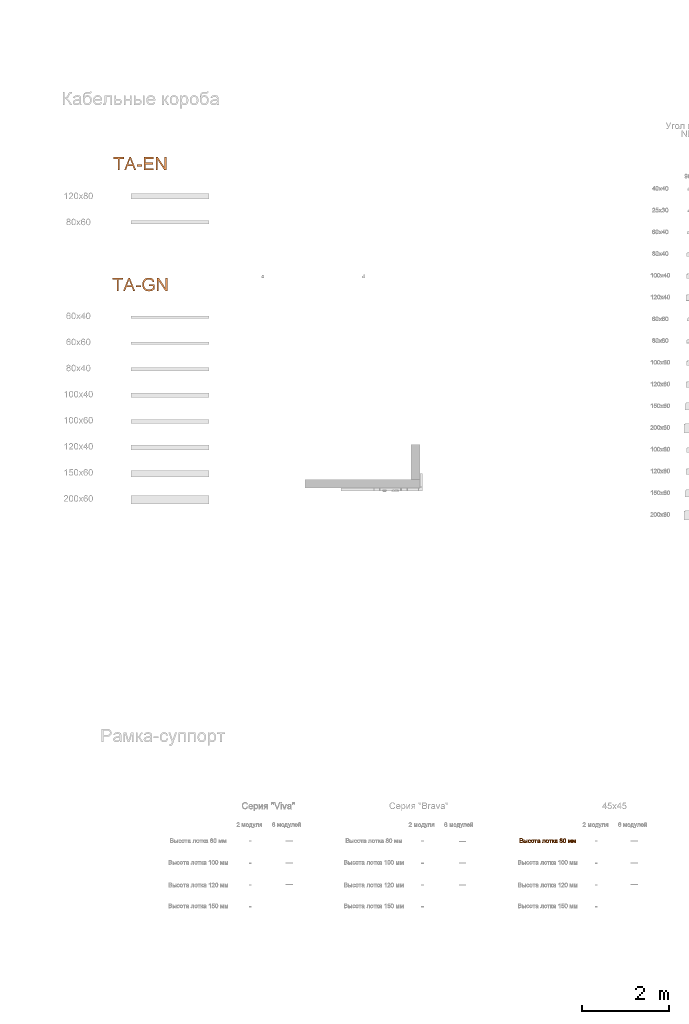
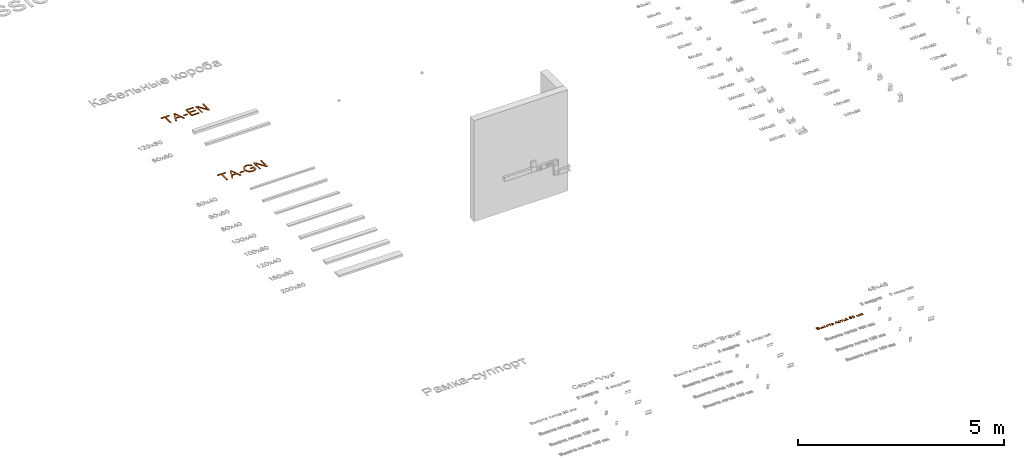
# One storey, part 27 of 71: 3 proxies.
"""IFC2X3 building model written with IfcOpenShell, lengths in millimetres."""

from ifc_helpers import new_model, entity, si_unit, converted_unit, derived_unit, direction, frame, frame_2d, origin, place, context, subcontext, project, spatial, polyline, rectangle, outline, extrude, element, save


model = new_model("IFC2X3")

# Units and contexts
model_context = context("Model", 3, precision=0.01, world=origin(), true_north=direction((6.12303176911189e-17, 1.0)))
body_context = subcontext(model_context, "Body", "Model", "MODEL_VIEW")
ifc_project = project(units=[si_unit("LENGTHUNIT", "METRE", prefix="MILLI"), si_unit("AREAUNIT", "SQUARE_METRE"), si_unit("VOLUMEUNIT", "CUBIC_METRE"), converted_unit("PLANEANGLEUNIT", "DEGREE", entity("IfcRatioMeasure", 0.0174532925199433), si_unit("PLANEANGLEUNIT", "RADIAN"), dimensions=[0, 0, 0, 0, 0, 0, 0]), si_unit("MASSUNIT", "GRAM", prefix="KILO"), derived_unit("MASSDENSITYUNIT", [(si_unit("MASSUNIT", "GRAM", prefix="KILO"), 1), (si_unit("LENGTHUNIT", "METRE"), -3)]), si_unit("TIMEUNIT", "SECOND"), si_unit("FREQUENCYUNIT", "HERTZ"), si_unit("THERMODYNAMICTEMPERATUREUNIT", "DEGREE_CELSIUS"), derived_unit("THERMALTRANSMITTANCEUNIT", [(si_unit("MASSUNIT", "GRAM", prefix="KILO"), 1), (si_unit("THERMODYNAMICTEMPERATUREUNIT", "KELVIN"), -1), (si_unit("TIMEUNIT", "SECOND"), -3)]), derived_unit("VOLUMETRICFLOWRATEUNIT", [(si_unit("LENGTHUNIT", "METRE"), 3), (si_unit("TIMEUNIT", "SECOND"), -1)]), si_unit("ELECTRICCURRENTUNIT", "AMPERE"), si_unit("ELECTRICVOLTAGEUNIT", "VOLT"), si_unit("POWERUNIT", "WATT"), si_unit("FORCEUNIT", "NEWTON", prefix="KILO"), si_unit("ILLUMINANCEUNIT", "LUX"), si_unit("LUMINOUSFLUXUNIT", "LUMEN"), si_unit("LUMINOUSINTENSITYUNIT", "CANDELA"), derived_unit("USERDEFINED", [(si_unit("MASSUNIT", "GRAM", prefix="KILO"), -1), (si_unit("LENGTHUNIT", "METRE"), -2), (si_unit("TIMEUNIT", "SECOND"), 3), (si_unit("LUMINOUSFLUXUNIT", "LUMEN"), 1)]), derived_unit("LINEARVELOCITYUNIT", [(si_unit("LENGTHUNIT", "METRE"), 1), (si_unit("TIMEUNIT", "SECOND"), -1)]), si_unit("PRESSUREUNIT", "PASCAL"), derived_unit("USERDEFINED", [(si_unit("LENGTHUNIT", "METRE"), -2), (si_unit("MASSUNIT", "GRAM", prefix="KILO"), 1), (si_unit("TIMEUNIT", "SECOND"), -2)])], contexts=[model_context])

# Site, building, storey
site_placement = place(None, origin())
site = spatial("IfcSite", under=ifc_project, at=site_placement, Name="Default", CompositionType="ELEMENT")
building_placement = place(site_placement, origin())
building = spatial("IfcBuilding", under=site, at=building_placement, Name="Наименование здания", CompositionType="ELEMENT")
storey_placement = place(building_placement, origin())
storey = spatial("IfcBuildingStorey", under=building, at=storey_placement, Name="Этаж 01", CompositionType="ELEMENT", Elevation=0.0)

# Proxies
proxy_1_placement = place(storey_placement, origin())
element("IfcBuildingElementProxy", 1, at=proxy_1_placement, inside=storey, Name="Текст модели:300 мм Arial", ObjectType="Текст модели:300 мм Arial", context=body_context, shape_type="SweptSolid", body=[
    extrude(outline(polyline([(-18.8355581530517, -207.19113968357), (18.8355581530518, -207.19113968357), (18.8355581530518, 56.5066744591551), (117.722238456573, 56.5066744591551), (117.722238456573, 94.1777907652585), (-117.722238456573, 94.1777907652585), (-117.722238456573, 56.5066744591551), (-18.8355581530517, 56.5066744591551), (-18.8355581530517, -207.19113968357)])), frame((689.401621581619, 3709.70994998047, 0.0)), (0.0, 0.0, 1.0), 20.0),
    extrude(outline(polyline([(-136.32787036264, -98.8866803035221), (-96.5230384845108, -98.8866803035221), (-62.0892837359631, -4.70888953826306), (62.0341014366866, -4.70888953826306), (96.5414325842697, -98.8866803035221), (136.346264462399, -98.8866803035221), (16.0488520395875, 202.482250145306), (-16.0304579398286, 202.482250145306), (-136.32787036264, -98.8866803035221)]), holes=[polyline([(-48.2569207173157, 32.9622267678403), (-18.7527847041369, 113.528383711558), (0.00919704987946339, 164.811133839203), (21.1256235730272, 107.053660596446), (48.2753148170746, 32.9622267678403), (-48.2569207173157, 32.9622267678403)])]), frame((950.735793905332, 3601.40549060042, 0.0)), (0.0, 0.0, 1.0), 20.0),
    extrude(rectangle(XDim=117.722238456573, YDim=37.6711163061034, at=frame_2d((-6.75015598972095e-14, 0.0), x_axis=(1.0, 0.0))), frame((1162.64502017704, 3610.82326967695, 0.0)), (0.0, 0.0, 1.0), 20.0),
    extrude(outline(polyline([(-120.076683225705, -152.254095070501), (101.241125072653, -152.254095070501), (101.241125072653, -114.582978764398), (-82.4055669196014, -114.582978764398), (-82.4055669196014, -15.696298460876), (87.1144564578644, -15.696298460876), (87.1144564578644, 21.9748178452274), (-82.4055669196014, 21.9748178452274), (-82.4055669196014, 111.443719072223), (96.5322355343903, 111.443719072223), (96.5322355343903, 149.114835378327), (-120.076683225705, 149.114835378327), (-120.076683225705, -152.254095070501)])), frame((1388.67171801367, 3654.7729053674, 0.0)), (0.0, 0.0, 1.0), 20.0),
    extrude(outline(polyline([(-117.722238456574, -150.691822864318), (-80.0511221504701, -150.691822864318), (-80.0511221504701, 88.1371684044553), (77.4023717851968, -150.691822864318), (117.722238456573, -150.691822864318), (117.722238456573, 150.67710758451), (80.0511221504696, 150.67710758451), (80.0511221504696, -88.0783072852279), (-77.4023717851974, 150.67710758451), (-117.722238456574, 150.67710758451), (-117.722238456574, -150.691822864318)])), frame((1664.14175600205, 3653.21063316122, 0.0)), (0.0, 0.0, 1.0), 20.0),
])
proxy_2_placement = place(storey_placement, origin())
element("IfcBuildingElementProxy", 2, at=proxy_2_placement, inside=storey, Name="Текст модели:300 мм Arial", ObjectType="Текст модели:300 мм Arial", context=body_context, shape_type="SweptSolid", body=[
    extrude(outline(polyline([(-18.8355581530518, -207.191139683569), (18.8355581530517, -207.191139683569), (18.8355581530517, 56.5066744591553), (117.722238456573, 56.5066744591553), (117.722238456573, 94.1777907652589), (-117.722238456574, 94.1777907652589), (-117.722238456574, 56.5066744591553), (-18.8355581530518, 56.5066744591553), (-18.8355581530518, -207.191139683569)])), frame((665.8571738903, 929.709949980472, 0.0)), (0.0, 0.0, 1.0), 20.0),
    extrude(outline(polyline([(-136.32787036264, -98.8866803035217), (-96.5230384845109, -98.8866803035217), (-62.0892837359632, -4.70888953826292), (62.0341014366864, -4.70888953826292), (96.5414325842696, -98.8866803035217), (136.346264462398, -98.8866803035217), (16.0488520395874, 202.482250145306), (-16.0304579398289, 202.482250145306), (-136.32787036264, -98.8866803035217)]), holes=[polyline([(-48.2569207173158, 32.9622267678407), (-18.7527847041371, 113.528383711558), (0.00919704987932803, 164.811133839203), (21.1256235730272, 107.053660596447), (48.2753148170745, 32.9622267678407), (-48.2569207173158, 32.9622267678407)])]), frame((927.191346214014, 821.405490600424, 0.0)), (0.0, 0.0, 1.0), 20.0),
    extrude(rectangle(XDim=117.722238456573, YDim=37.6711163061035, at=frame_2d((0.0, -6.75015598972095e-14), x_axis=(1.0, 0.0))), frame((1139.10057248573, 830.82326967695, 0.0)), (0.0, 0.0, 1.0), 20.0),
    extrude(outline(polyline([(13.1433056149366, 39.6701221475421), (13.1433056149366, 1.99900584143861), (135.574433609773, 1.99900584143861), (135.574433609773, 114.644472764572), (105.82197724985, 135.337834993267), (75.1314218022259, 150.18187349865), (43.5763436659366, 159.121405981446), (11.2303192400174, 162.101250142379), (-31.0301249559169, 157.364769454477), (-69.2254731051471, 143.155327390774), (-100.955295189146, 119.969564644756), (-123.819161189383, 88.304121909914), (-137.642327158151, 50.3203059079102), (-142.250049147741, 8.17942336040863), (-137.66072125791, -34.2649618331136), (-123.892737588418, -73.7478969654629), (-101.51631523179, -106.866473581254), (-71.101671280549, -130.217783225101), (-34.0559543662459, -144.068540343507), (8.21368687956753, -148.685459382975), (39.24453317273, -146.009117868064), (67.1483825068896, -137.980093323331), (90.6468449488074, -125.177799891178), (108.461530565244, -108.181651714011), (121.640903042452, -86.1731113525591), (131.233426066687, -58.3336413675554), (96.5053657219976, -48.5479802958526), (88.7522526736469, -68.40441098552), (79.3252765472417, -83.3864052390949), (66.8540769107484, -94.6803824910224), (49.9682933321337, -103.472762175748), (29.8359511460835, -109.128947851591), (7.62507568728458, -111.014343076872), (-18.3749843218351, -108.98179505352), (-40.604253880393, -102.884150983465), (-58.9799595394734, -93.4847660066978), (-73.4193278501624, -81.5469952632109), (-92.8067089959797, -52.521105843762), (-101.635876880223, -24.083827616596), (-104.578932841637, 6.63431898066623), (-101.03806863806, 42.6591633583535), (-90.4154760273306, 72.3012551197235), (-73.0330517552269, 95.3490621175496), (-49.2126925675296, 111.591052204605), (-21.3364343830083, 121.220363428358), (8.21368687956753, 124.430133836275), (34.3057173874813, 122.011309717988), (59.7539544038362, 114.754837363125), (81.8544652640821, 104.757644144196), (97.9033173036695, 94.1166574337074), (97.9033173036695, 39.6701221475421), (13.1433056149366, 39.6701221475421)])), frame((1373.17396762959, 879.911170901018, 0.0), z_axis=(0.0, 0.0, -1.0), x_axis=(1.0, 0.0, 0.0)), (0.0, 0.0, -1.0), 20.0),
    extrude(outline(polyline([(-117.722238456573, -150.691822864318), (-80.0511221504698, -150.691822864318), (-80.0511221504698, 88.1371684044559), (77.4023717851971, -150.691822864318), (117.722238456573, -150.691822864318), (117.722238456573, 150.677107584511), (80.0511221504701, 150.677107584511), (80.0511221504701, -88.0783072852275), (-77.4023717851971, 150.677107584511), (-117.722238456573, 150.677107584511), (-117.722238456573, -150.691822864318)])), frame((1687.68620369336, 873.21063316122, 0.0)), (0.0, 0.0, 1.0), 20.0),
])
proxy_3_placement = place(storey_placement, origin())
element("IfcBuildingElementProxy", 3, at=proxy_3_placement, inside=storey, Name="Текст модели:100 мм Arial", ObjectType="Текст модели:100 мм Arial", context=body_context, shape_type="SweptSolid", body=[
    extrude(outline(polyline([(-52.8068326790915, -48.6909338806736), (-14.7678343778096, -48.6909338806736), (1.33313427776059, -46.9618885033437), (12.2592295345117, -41.860591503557), (19.5800812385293, -32.2466086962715), (22.5353999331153, -18.7453394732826), (18.2066551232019, -3.12261741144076), (5.83355735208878, 6.24611073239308), (16.0238886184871, 15.1365922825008), (19.3961402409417, 26.8720279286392), (15.3862264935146, 39.7233722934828), (4.30071570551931, 48.8100575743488), (-14.4735287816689, 51.7653762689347), (-52.8068326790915, 51.7653762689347), (-52.8068326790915, -48.6909338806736)]), holes=[polyline([(-40.2497939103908, 10.9550002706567), (-40.2497939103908, 39.208337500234), (-19.0597909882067, 39.208337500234), (-2.92203413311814, 37.8962250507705), (4.31297843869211, 33.0524454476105), (6.83910147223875, 24.8609396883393), (4.12903744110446, 16.6816966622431), (-3.92757825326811, 12.0341207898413), (-17.318482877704, 10.9550002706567), (-40.2497939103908, 10.9550002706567)]), polyline([(-40.2497939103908, -36.1338951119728), (-40.2497939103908, -1.60203849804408), (-15.7243275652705, -1.60203849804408), (-0.211970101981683, -3.28203294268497), (7.57486546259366, -9.10683119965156), (9.97836116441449, -18.8679668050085), (7.93048472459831, -27.3292526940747), (2.70656039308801, -32.9087962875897), (-5.17837703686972, -35.6433857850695), (-14.4980542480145, -36.1338951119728), (-40.2497939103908, -36.1338951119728)])]), frame((9968.33160760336, -11917.8794073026, 0.0)), (0.0, 0.0, 1.0), 20.0),
    extrude(outline(polyline([(-42.39887158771, -34.5139341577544), (31.3737311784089, -34.5139341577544), (31.3737311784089, -3.73447389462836), (29.653882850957, 9.31613988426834), (24.4943378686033, 18.2526066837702), (16.9129030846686, 23.4121516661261), (7.92738535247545, 25.131999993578), (-1.9410491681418, 23.081057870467), (-9.42438208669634, 16.928231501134), (-14.1424686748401, 6.98622058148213), (-15.7151642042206, -6.43227519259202), (-15.7151642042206, -21.9568953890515), (-42.39887158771, -21.9568953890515), (-42.39887158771, -34.5139341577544)]), holes=[polyline([(18.8166924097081, -21.9568953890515), (-3.15812543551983, -21.9568953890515), (-3.15812543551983, -7.41329384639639), (0.226388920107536, 8.8838785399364), (7.95191081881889, 12.5749612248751), (16.1802047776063, 7.5962915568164), (18.8166924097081, -9.05650009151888), (18.8166924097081, -21.9568953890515)])]), frame((10041.0772401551, -11935.1966100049, 0.0), z_axis=(0.0, 0.0, 1.0), x_axis=(0.0, -1.0, 0.0)), (0.0, 0.0, 1.0), 20.0),
    extrude(outline(polyline([(0.267683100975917, -20.7200562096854), (-4.02278247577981, -32.6253015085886), (7.51957889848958, -34.5647704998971), (18.024291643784, -32.524098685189), (26.8500141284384, -26.8719753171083), (33.3554047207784, -17.9770896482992), (37.2076783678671, -4.95154901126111), (35.3403176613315, 7.71415747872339), (27.6846262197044, 19.1676933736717), (14.1719076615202, 28.5567222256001), (-6.16200624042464, 34.5864889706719), (-23.4110955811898, 30.2307841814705), (-35.1302422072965, 17.0254849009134), (-38.5714296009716, 6.87231136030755), (-38.3156698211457, -2.77330902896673), (-34.4593562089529, -11.5597521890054), (-27.0988821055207, -19.1353940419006), (-20.0099089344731, -8.65257858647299), (-25.7552259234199, 0.80169796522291), (-23.9806627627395, 11.2483121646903), (-18.9208808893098, 17.7794646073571), (-11.8538304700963, 21.4126833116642), (-2.81100512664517, 21.5312059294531), (8.1761015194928, 17.5182701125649), (18.0468481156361, 10.9639331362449), (23.347053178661, 3.65828147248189), (24.6053297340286, -4.07586677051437), (22.3502908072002, -11.9156934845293), (13.5558525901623, -20.7200562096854), (0.267683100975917, -20.7200562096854)])), frame((10135.7588113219, -11930.2595425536, 0.0), z_axis=(0.0, 0.0, -1.0), x_axis=(-0.45310996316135, -0.891454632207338, 0.0)), (0.0, 0.0, -1.0), 20.0),
    extrude(outline(polyline([(-2.3402974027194, -31.6984909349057), (14.2731811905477, -31.6984909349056), (27.1869525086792, -26.5873672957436), (35.9909592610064, -17.1811275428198), (40.2751441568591, -4.29577920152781), (38.1491713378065, 13.1690451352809), (27.2514955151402, 26.6485362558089), (5.67797919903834, 33.7446283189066), (-10.1280544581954, 33.6081083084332), (-22.8059382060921, 28.3900569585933), (-31.6389568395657, 18.9754531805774), (-35.9103951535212, 6.24927588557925), (-35.5406401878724, -5.97109031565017), (-30.853588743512, -16.7835237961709), (-19.5870121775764, -26.5692340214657), (-2.3402974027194, -31.6984909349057)]), holes=[polyline([(-0.642949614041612, -19.2566729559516), (-11.6948097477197, -16.2599663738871), (-19.0989004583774, -10.8341828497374), (-22.9822632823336, -3.67356758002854), (-23.4719397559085, 4.52763423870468), (-20.778322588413, 12.2046648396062), (-15.0781786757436, 18.0357050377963), (-6.56600936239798, 21.2863283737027), (4.56368400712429, 21.2221083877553), (15.8675929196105, 18.1905150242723), (23.3961896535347, 12.747498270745), (27.3267847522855, 5.59272509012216), (27.8366887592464, -2.57413755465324), (25.1317228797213, -10.3331599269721), (19.4311586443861, -16.167236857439), (10.8134498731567, -19.3753979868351), (-0.642949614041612, -19.2566729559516)])]), frame((10206.2337114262, -11927.6561924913, 0.0), z_axis=(0.0, 0.0, 1.0), x_axis=(0.137105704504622, -0.990556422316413, 0.0)), (0.0, 0.0, 1.0), 20.0),
    extrude(outline(polyline([(-24.7216700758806, -29.8229670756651), (-12.1646313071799, -29.8229670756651), (-12.1646313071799, -6.27851938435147), (49.0509326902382, -6.27851938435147), (49.0509326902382, 6.2785193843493), (-12.1646313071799, 6.2785193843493), (-12.1646313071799, 29.8229670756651), (-24.7216700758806, 29.8229670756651), (-24.7216700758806, -29.8229670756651)])), frame((10278.1092693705, -11917.5194084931, 0.0), z_axis=(0.0, 0.0, 1.0), x_axis=(0.0, -1.0, 0.0)), (0.0, 0.0, 1.0), 20.0),
    extrude(outline(polyline([(32.0508237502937, 7.88266535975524), (41.978034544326, 7.88266535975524), (45.9489188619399, 19.7953183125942), (35.1414436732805, 20.7608946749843), (14.2438893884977, 27.0545912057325), (-0.577126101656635, 31.9949297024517), (-11.1945882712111, 34.8877809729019), (-20.4974705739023, 33.9299602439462), (-28.5323068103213, 27.547073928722), (-35.4619652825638, 13.8157249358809), (-38.3044049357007, -2.6998964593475), (-34.9462156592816, -15.3493345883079), (-25.0306383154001, -24.3807697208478), (-19.5706723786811, -12.9644773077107), (-25.7868125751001, -4.50695904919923), (-24.061184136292, 8.30922519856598), (-16.2279943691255, 20.3304570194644), (-6.33956174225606, 20.6794605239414), (-3.71040200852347, 19.7255176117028), (-6.50243004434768, -2.30048133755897), (-8.14662433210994, -13.2049019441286), (-7.0181796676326, -22.8490321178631), (-2.17478658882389, -31.1204151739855), (6.48825595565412, -36.5416029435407), (15.0010331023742, -37.7020395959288), (22.9495879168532, -35.3200906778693), (29.6378522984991, -29.3899394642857), (34.3697581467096, -19.9057692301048), (36.2737661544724, -6.36055543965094), (32.0508237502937, 7.88266535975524)]), holes=[polyline([(8.22551784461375, 15.8244339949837), (11.5759514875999, 14.6300664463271), (20.1614376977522, 9.674216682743), (24.4696920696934, -0.396473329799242), (23.3024692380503, -13.3987927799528), (17.2491973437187, -22.9498553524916), (9.62153186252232, -24.3497471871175), (5.58084684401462, -21.1932043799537), (3.98706417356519, -15.5044472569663), (5.47226797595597, -4.61166010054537), (8.22551784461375, 15.8244339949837)])]), frame((10348.3950273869, -11929.2391985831, 0.0), z_axis=(0.0, 0.0, 1.0), x_axis=(0.316227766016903, -0.948683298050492, 0.0)), (0.0, 0.0, 1.0), 20.0),
    extrude(outline(polyline([(-49.3689973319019, 12.5447760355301), (-49.3689973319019, -43.9618984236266), (24.3300290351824, -43.9618984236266), (24.3300290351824, -31.4048596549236), (-36.8119585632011, -31.4048596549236), (-36.8119585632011, -0.0122627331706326), (-1.61791435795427, -0.0122627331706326), (14.6179443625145, 0.833865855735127), (21.4728122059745, 5.48144172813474), (24.403605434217, 16.4688506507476), (23.7659433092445, 26.6714446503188), (11.8465666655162, 26.6714446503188), (11.8465666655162, 21.0551128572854), (11.0740144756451, 15.3774673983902), (8.62146784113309, 13.108861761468), (-2.32915288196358, 12.5447760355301), (-49.3689973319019, 12.5447760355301)])), frame((10453.8955493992, -11942.1667357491, 0.0), z_axis=(0.0, 0.0, -1.0), x_axis=(0.0, -1.0, 0.0)), (0.0, 0.0, -1.0), 20.0),
    extrude(outline(polyline([(-2.34029740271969, -31.6984909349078), (14.2731811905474, -31.6984909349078), (27.1869525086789, -26.5873672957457), (35.9909592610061, -17.1811275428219), (40.2751441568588, -4.29577920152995), (38.1491713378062, 13.1690451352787), (27.2514955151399, 26.6485362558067), (5.67797919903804, 33.7446283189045), (-10.1280544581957, 33.6081083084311), (-22.8059382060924, 28.3900569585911), (-31.6389568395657, 18.9754531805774), (-35.9103951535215, 6.24927588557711), (-35.5406401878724, -5.97109031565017), (-30.8535887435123, -16.783523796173), (-19.5870121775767, -26.5692340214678), (-2.34029740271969, -31.6984909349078)]), holes=[polyline([(-0.642949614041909, -19.2566729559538), (-11.69480974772, -16.2599663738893), (-19.0989004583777, -10.8341828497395), (-22.9822632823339, -3.67356758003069), (-23.4719397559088, 4.52763423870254), (-20.7783225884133, 12.204664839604), (-15.0781786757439, 18.0357050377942), (-6.56600936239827, 21.2863283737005), (4.56368400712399, 21.2221083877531), (15.8675929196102, 18.1905150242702), (23.3961896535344, 12.7474982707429), (27.3267847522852, 5.59272509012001), (27.8366887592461, -2.57413755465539), (25.131722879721, -10.3331599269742), (19.4311586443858, -16.1672368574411), (10.8134498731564, -19.3753979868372), (-0.642949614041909, -19.2566729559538)])]), frame((10545.2737581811, -11927.6561924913, 0.0), z_axis=(0.0, 0.0, 1.0), x_axis=(0.137105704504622, -0.990556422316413, 0.0)), (0.0, 0.0, 1.0), 20.0),
    extrude(outline(polyline([(-24.7216700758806, -29.8229670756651), (-12.1646313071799, -29.8229670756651), (-12.1646313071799, -6.27851938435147), (49.0509326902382, -6.27851938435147), (49.0509326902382, 6.2785193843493), (-12.1646313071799, 6.2785193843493), (-12.1646313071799, 29.8229670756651), (-24.7216700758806, 29.8229670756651), (-24.7216700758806, -29.8229670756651)])), frame((10617.1493161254, -11917.5194084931, 0.0), z_axis=(0.0, 0.0, 1.0), x_axis=(0.0, -1.0, 0.0)), (0.0, 0.0, 1.0), 20.0),
    extrude(outline(polyline([(-30.3295712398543, -29.5353037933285), (43.4430315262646, -29.5353037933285), (43.4430315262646, -16.9782650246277), (8.91117491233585, -16.9782650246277), (11.2288314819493, -10.2337617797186), (20.8060260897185, -3.61188586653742), (43.4430315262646, 9.55828956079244), (43.4430315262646, 23.8321109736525), (20.3155167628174, 10.3921554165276), (10.0209522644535, 2.61758258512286), (5.1342530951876, -5.3041430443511), (0.756457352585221, 1.7959794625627), (-8.18307513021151, 6.86048826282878), (-16.4481572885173, 11.1769703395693), (-17.7725324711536, 17.3083369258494), (-17.6989560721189, 20.6928512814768), (-30.3295712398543, 20.6928512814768), (-30.3295712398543, 18.2893555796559), (-29.3730780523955, 9.10456843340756), (-25.6819953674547, 4.05232236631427), (-14.3389671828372, -1.6743740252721), (-1.1933172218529, -8.56603006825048), (1.06302568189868, -16.9782650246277), (-30.3295712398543, -16.9782650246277), (-30.3295712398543, -29.5353037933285)])), frame((10687.4949959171, -11923.127309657, 0.0), z_axis=(0.0, 0.0, 1.0), x_axis=(0.0, -1.0, 0.0)), (0.0, 0.0, 1.0), 20.0),
    extrude(rectangle(XDim=73.7726027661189, YDim=12.5570387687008, at=frame_2d((1.08357767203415e-12, -1.08268949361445e-12), x_axis=(1.0, 0.0))), frame((10081.9055386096, -11929.6840398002, 0.0), z_axis=(0.0, 0.0, 1.0), x_axis=(0.0, -1.0, 0.0)), (0.0, 0.0, 1.0), 20.0),
    extrude(outline(polyline([(32.050823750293, 7.88266535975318), (41.9780345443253, 7.88266535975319), (45.9489188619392, 19.7953183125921), (35.1414436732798, 20.7608946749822), (14.243889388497, 27.0545912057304), (-0.57712610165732, 31.9949297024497), (-11.1945882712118, 34.8877809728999), (-20.4974705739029, 33.9299602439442), (-28.532306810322, 27.54707392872), (-35.4619652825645, 13.8157249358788), (-38.3044049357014, -2.69989645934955), (-34.9462156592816, -15.3493345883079), (-25.0306383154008, -24.3807697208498), (-19.5706723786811, -12.9644773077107), (-25.7868125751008, -4.50695904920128), (-24.0611841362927, 8.30922519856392), (-16.2279943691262, 20.3304570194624), (-6.33956174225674, 20.6794605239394), (-3.71040200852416, 19.7255176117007), (-6.50243004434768, -2.30048133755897), (-8.14662433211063, -13.2049019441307), (-7.01817966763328, -22.8490321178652), (-2.17478658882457, -31.1204151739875), (6.48825595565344, -36.5416029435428), (15.0010331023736, -37.7020395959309), (22.9495879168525, -35.3200906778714), (29.6378522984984, -29.3899394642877), (34.3697581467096, -19.9057692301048), (36.2737661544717, -6.36055543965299), (32.050823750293, 7.88266535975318)]), holes=[polyline([(8.22551784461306, 15.8244339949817), (11.5759514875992, 14.6300664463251), (20.1614376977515, 9.67421668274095), (24.4696920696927, -0.396473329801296), (23.3024692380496, -13.3987927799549), (17.249197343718, -22.9498553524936), (9.62153186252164, -24.3497471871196), (5.58084684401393, -21.1932043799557), (3.9870641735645, -15.5044472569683), (5.47226797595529, -4.61166010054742), (8.22551784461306, 15.8244339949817)])]), frame((10748.6506381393, -11929.2391985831, 0.0), z_axis=(0.0, 0.0, 1.0), x_axis=(0.316227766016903, -0.948683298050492, 0.0)), (0.0, 0.0, 1.0), 20.0),
    extrude(outline(polyline([(10.1224324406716, -11.2212127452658), (26.4477736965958, -11.2212127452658), (39.6861381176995, -0.0909413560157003), (44.6322314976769, 11.3078156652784), (44.5856416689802, 23.416860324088), (39.6073830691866, 34.8346290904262), (29.7584701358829, 44.1595584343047), (17.4236057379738, 49.7956565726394), (4.98749274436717, 50.1469317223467), (-6.20047708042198, 45.7236060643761), (-14.7909119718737, 37.0359017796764), (-20.0781666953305, 21.0056847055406), (-14.5070621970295, 5.37692494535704), (-28.0684052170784, 5.15563707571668), (-37.7221714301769, -2.60845010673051), (-41.5236361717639, -11.9357006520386), (-41.0036870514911, -22.223265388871), (-36.1916154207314, -32.1870777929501), (-27.1167126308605, -40.543071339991), (-16.0503295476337, -45.8123091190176), (-5.18246445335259, -46.5706787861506), (4.38453303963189, -43.2361071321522), (11.5483133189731, -36.22652094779), (15.2516244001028, -24.0826582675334), (10.1224324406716, -11.2212127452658)]), holes=[polyline([(1.34077476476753, -28.9039041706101), (-7.53771017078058, -33.9815875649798), (-20.2415350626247, -30.0339976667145), (-28.5905650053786, -19.6902819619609), (-26.9800933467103, -9.13787919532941), (-18.1108932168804, -3.87648928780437), (-5.45128168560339, -7.82385811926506), (3.15927028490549, -18.2403048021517), (1.34077476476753, -28.9039041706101)]), polyline([(29.0262968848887, 6.56051660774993), (17.1806533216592, -1.5157169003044), (9.68494123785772, -1.27757268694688), (1.95268767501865, 2.32885586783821), (-4.46267094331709, 8.27886886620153), (-7.64161156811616, 15.3010558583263), (-4.59707955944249, 29.6929468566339), (7.3133365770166, 37.7994665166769), (14.8367372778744, 37.4872096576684), (22.659572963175, 33.8012523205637), (30.3730358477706, 25.5864099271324), (32.5711030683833, 15.5727469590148), (29.0262968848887, 6.56051660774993)])]), frame((10865.1498099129, -11914.8893077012, 0.0), z_axis=(0.0, 0.0, 1.0), x_axis=(-0.829266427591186, -0.558853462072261, 0.0)), (0.0, 0.0, 1.0), 20.0),
    extrude(outline(polyline([(-7.02884310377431, -33.3490673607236), (17.5323805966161, -33.3490673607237), (35.1984171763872, -27.6137612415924), (43.3439841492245, -18.4876517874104), (47.0516941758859, -5.75150665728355), (46.7162020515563, 4.48638208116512), (43.4465778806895, 13.0955287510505), (27.9444305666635, 25.6659118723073), (-0.314338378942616, 32.2325535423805), (-24.029650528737, 32.367828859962), (-39.4143020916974, 28.0260881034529), (-49.7293680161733, 18.9002174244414), (-54.4436715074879, 4.63998875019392), (-50.8676582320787, -14.130105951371), (-35.4058547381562, -26.7333390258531), (-7.02884310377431, -33.3490673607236)]), holes=[polyline([(-5.77428774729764, -20.8548320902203), (-25.0157644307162, -17.3562860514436), (-36.7257089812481, -11.5717922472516), (-41.0962588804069, -4.7759968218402), (-41.9669219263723, 3.21464792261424), (-39.2244253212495, 11.2791292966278), (-32.8654063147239, 17.2229259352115), (-20.9698370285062, 20.2947501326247), (-1.6176895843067, 19.7433141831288), (17.8514140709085, 16.2707701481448), (28.7803640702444, 10.7141596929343), (33.5546988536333, 3.61815959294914), (34.5599568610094, -4.47255337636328), (31.9421230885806, -12.1923199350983), (25.8471825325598, -18.1754808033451), (14.0250679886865, -21.4027476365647), (-5.77428774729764, -20.8548320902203)])]), frame((10942.9920050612, -11920.747164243, 0.0), z_axis=(0.0, 0.0, 1.0), x_axis=(0.1018515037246, -0.994799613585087, 0.0)), (0.0, 0.0, 1.0), 20.0),
    extrude(outline(polyline([(-40.5839870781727, -38.4502715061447), (33.1886156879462, -38.4502715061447), (33.1886156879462, -25.893232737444), (-29.0570178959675, -25.893232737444), (33.1886156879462, -8.6273044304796), (33.1886156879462, 7.85380895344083), (-26.2120637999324, 25.9045521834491), (33.1886156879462, 25.9045521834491), (33.1886156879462, 38.4615909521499), (-40.5839870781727, 38.4615909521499), (-40.5839870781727, 17.7620973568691), (18.4733358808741, -0.190544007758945), (-40.5839870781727, -16.8433356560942), (-40.5839870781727, -38.4502715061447)])), frame((11066.8426073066, -11933.3817254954, 0.0), z_axis=(0.0, 0.0, 1.0), x_axis=(0.0, -1.0, 0.0)), (0.0, 0.0, 1.0), 20.0),
    extrude(outline(polyline([(-40.5839870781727, -38.4502715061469), (33.1886156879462, -38.4502715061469), (33.1886156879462, -25.8932327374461), (-29.0570178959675, -25.8932327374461), (33.1886156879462, -8.62730443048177), (33.1886156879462, 7.85380895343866), (-26.2120637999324, 25.904552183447), (33.1886156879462, 25.904552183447), (33.1886156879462, 38.4615909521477), (-40.5839870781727, 38.4615909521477), (-40.5839870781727, 17.762097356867), (18.4733358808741, -0.19054400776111), (-40.5839870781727, -16.8433356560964), (-40.5839870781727, -38.4502715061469)])), frame((11162.5900279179, -11933.3817254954, 0.0), z_axis=(0.0, 0.0, 1.0), x_axis=(0.0, -1.0, 0.0)), (0.0, 0.0, 1.0), 20.0),
])

save(model, "model.ifc")
